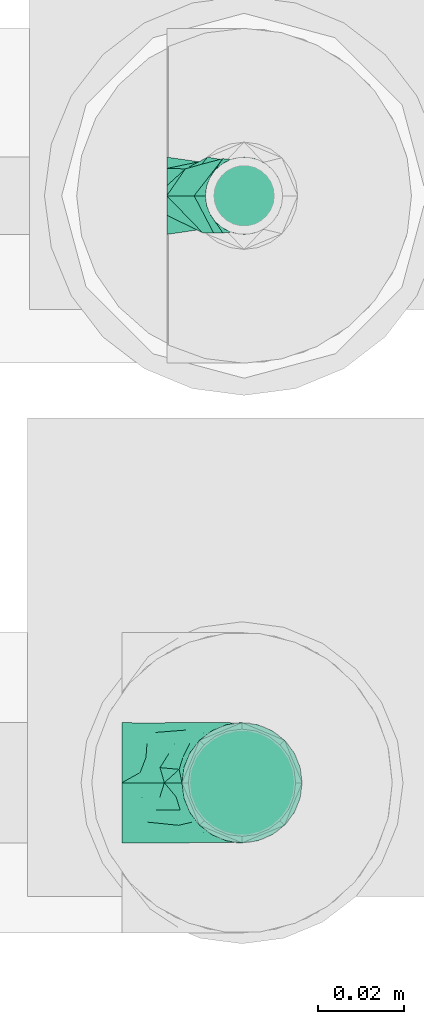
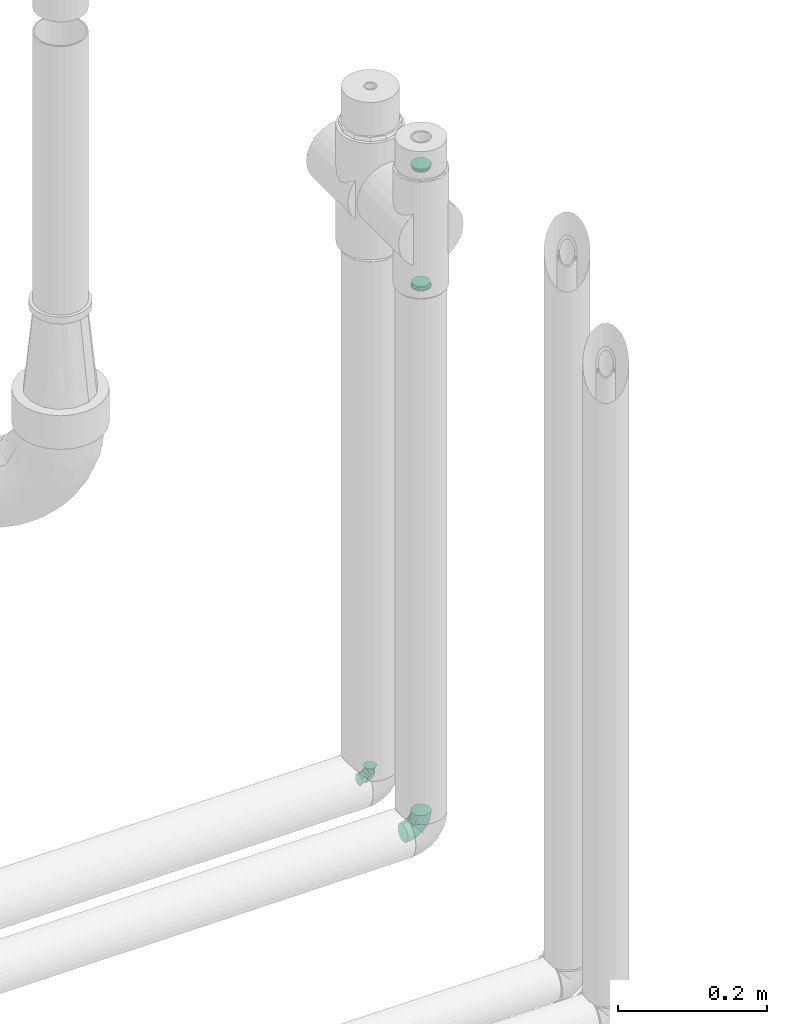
# One storey, part 46 of 83: 4 flow fittings.
"""IFC2X3 building model written with IfcOpenShell, lengths in millimetres."""

import ifcopenshell
import ifcopenshell.guid

model = None  # the IFC model being written
_history = None  # IfcOwnerHistory: only IFC2X3 demands one
_inside = {}  # id of a spatial element -> (the spatial element, [elements in it])
_under = {}  # id of a project, library or spatial element -> (it, [spatial elements below it])
_declared = {}  # id of a project -> (the project, [libraries it declares])
_typed = {}  # id of a type object -> (the type object, [elements of that type])
_made_of = {}  # id of a material, layer set ... -> (it, [elements and type objects made of it])


def new_model(schema):
    """Start an empty IFC model of exactly this schema.

    Asked for "IFC4X3", IfcOpenShell would pick the latest addendum, in which some entities
    have other attributes; the version numbers below select the first issue.
    IFC2X3 requires an IfcOwnerHistory on every rooted entity: one is made here for all.
    """
    global model, _history
    if schema == "IFC4X3":
        model = ifcopenshell.file(schema_version=(4, 3, 0, 0))
    else:
        model = ifcopenshell.file(schema=schema)
    _inside.clear()
    _under.clear()
    _declared.clear()
    _typed.clear()
    _made_of.clear()
    _history = None
    if model.schema == "IFC2X3":
        org = make("IfcOrganization", Name="unknown")
        user = make(
            "IfcPersonAndOrganization",
            ThePerson=make("IfcPerson", FamilyName="unknown"),
            TheOrganization=org,
        )
        app = make(
            "IfcApplication",
            ApplicationDeveloper=org,
            Version="unknown",
            ApplicationFullName="unknown",
            ApplicationIdentifier="unknown",
        )
        _history = make(
            "IfcOwnerHistory",
            OwningUser=user,
            OwningApplication=app,
            ChangeAction="ADDED",
            CreationDate=0,
        )
    return model


def make(cls, **values):
    """One entity of the class cls with the attributes given. An attribute that is None is left unset."""
    return model.create_entity(
        cls, **{name: value for name, value in values.items() if value is not None}
    )


def entity(cls, *values):
    """Any entity or typed value of the class cls, its attributes in the order of the schema. None: left unset."""
    e = model.create_entity(cls)
    for i, value in enumerate(values):
        if value is not None:
            e[i] = value
    return e


def rooted(cls, **values):
    """An entity with a GlobalId (a new one), such as an element, a storey or a relation."""
    return make(cls, GlobalId=ifcopenshell.guid.new(), OwnerHistory=_history, **values)


def si_unit(unit_type, name, prefix=None):
    """IfcSIUnit, for example si_unit("LENGTHUNIT", "METRE", prefix="MILLI")."""
    return make("IfcSIUnit", UnitType=unit_type, Prefix=prefix, Name=name)


def converted_unit(unit_type, name, factor, base, dimensions=None, offset=None):
    """IfcConversionBasedUnit, such as the inch: factor (a typed value) times the base unit."""
    return make(
        "IfcConversionBasedUnit"
        if offset is None
        else "IfcConversionBasedUnitWithOffset",
        ConversionOffset=offset,
        Dimensions=None
        if dimensions is None
        else entity("IfcDimensionalExponents", *dimensions),
        UnitType=unit_type,
        Name=name,
        ConversionFactor=make(
            "IfcMeasureWithUnit", ValueComponent=factor, UnitComponent=base
        ),
    )


def derived_unit(unit_type, elements):
    """IfcDerivedUnit: a product of units, each with its exponent."""
    return make(
        "IfcDerivedUnit",
        Elements=[
            make("IfcDerivedUnitElement", Unit=unit, Exponent=power)
            for unit, power in elements
        ],
        UnitType=unit_type,
    )


def assignment(units):
    """IfcUnitAssignment: the units of a project."""
    return None if units is None else make("IfcUnitAssignment", Units=units)


def point(xyz):
    """IfcCartesianPoint."""
    return None if xyz is None else make("IfcCartesianPoint", Coordinates=xyz)


def direction(xyz):
    """IfcDirection."""
    return None if xyz is None else make("IfcDirection", DirectionRatios=xyz)


def frame(location, z_axis=None, x_axis=None):
    """IfcAxis2Placement3D, a coordinate frame: its origin and axes. An axis left out is left unset."""
    return make(
        "IfcAxis2Placement3D",
        Location=point(location),
        Axis=direction(z_axis),
        RefDirection=direction(x_axis),
    )


def origin_with_axes():
    """The frame at (0, 0, 0) with the z axis (0, 0, 1) and the x axis (1, 0, 0) written out."""
    return frame((0.0, 0.0, 0.0), z_axis=(0.0, 0.0, 1.0), x_axis=(1.0, 0.0, 0.0))


def place(relative_to, where):
    """IfcLocalPlacement: puts the frame where relative to a parent placement (None: the world)."""
    return make(
        "IfcLocalPlacement", PlacementRelTo=relative_to, RelativePlacement=where
    )


def context(
    kind, dimensions, precision=None, world=None, true_north=None, identifier=None
):
    """IfcGeometricRepresentationContext, for example the 3D "Model" context."""
    return make(
        "IfcGeometricRepresentationContext",
        ContextIdentifier=identifier,
        ContextType=kind,
        CoordinateSpaceDimension=dimensions,
        Precision=precision,
        WorldCoordinateSystem=world,
        TrueNorth=true_north,
    )


def subcontext(parent, identifier, kind, view, scale=None):
    """IfcGeometricRepresentationSubContext, for example "Body" below "Model"."""
    return make(
        "IfcGeometricRepresentationSubContext",
        ContextIdentifier=identifier,
        ContextType=kind,
        ParentContext=parent,
        TargetScale=scale,
        TargetView=view,
    )


def project(units=None, contexts=None):
    """IfcProject with its units and contexts."""
    return rooted(
        "IfcProject",
        Name="project",
        RepresentationContexts=contexts,
        UnitsInContext=assignment(units),
    )


def spatial(cls, under=None, at=None, **own):
    """A site, building, storey or space (cls), placed at a placement, below another one or the project."""
    s = rooted(cls, ObjectPlacement=at, **own)
    if under is not None:
        _under.setdefault(under.id(), (under, []))[1].append(s)
    return s


def faces_of(points, faces, orient=None, outer=None):
    """IfcFace entities. A face is a list of loops; a loop is a list of indices into points, from 0.

    orient and outer hold one flag for each loop. By default every Orientation is true, the
    first loop of a face is its IfcFaceOuterBound and the others are IfcFaceBound.
    """
    made = []
    for i, loops in enumerate(faces):
        bounds = []
        for j, loop in enumerate(loops):
            is_outer = j == 0 if outer is None else outer[i][j]
            bounds.append(
                make(
                    "IfcFaceOuterBound" if is_outer else "IfcFaceBound",
                    Bound=make("IfcPolyLoop", Polygon=[points[k] for k in loop]),
                    Orientation=True if orient is None else orient[i][j],
                )
            )
        made.append(make("IfcFace", Bounds=bounds))
    return made


def open_shell(faces, orient=None, outer=None):
    """The faces of one IfcOpenShell. surface_model builds it on its shared points."""
    return ("IfcOpenShell", faces, orient, outer)


def surface_model(cls, points, shells):
    """IfcFaceBasedSurfaceModel or IfcShellBasedSurfaceModel (cls): surfaces that need not close."""
    shared = [point(p) for p in points]
    made = [make(c, CfsFaces=faces_of(shared, fs, o, b)) for c, fs, o, b in shells]
    if cls == "IfcFaceBasedSurfaceModel":
        return make(cls, FbsmFaces=made)
    return make(cls, SbsmBoundary=made)


def shape(context_of_items, identifier, shape_type, items):
    """IfcShapeRepresentation: the items that make up one representation, for example the "Body"."""
    return make(
        "IfcShapeRepresentation",
        ContextOfItems=context_of_items,
        RepresentationIdentifier=identifier,
        RepresentationType=shape_type,
        Items=items,
    )


def source(mapping_origin, context_of_items, identifier, shape_type, items):
    """IfcRepresentationMap: a shape defined once, which mapped items show again and again."""
    return make(
        "IfcRepresentationMap",
        MappingOrigin=mapping_origin,
        MappedRepresentation=shape(context_of_items, identifier, shape_type, items),
    )


def transform(
    local_origin,
    x_axis=None,
    y_axis=None,
    z_axis=None,
    scale=None,
    scale2=None,
    scale3=None,
    uniform=True,
):
    """IfcCartesianTransformationOperator3D, or its non-uniform kind. x_axis, y_axis, z_axis: its Axis1, 2, 3."""
    if uniform:
        return make(
            "IfcCartesianTransformationOperator3D",
            Axis1=direction(x_axis),
            Axis2=direction(y_axis),
            LocalOrigin=point(local_origin),
            Scale=scale,
            Axis3=direction(z_axis),
        )
    return make(
        "IfcCartesianTransformationOperator3DnonUniform",
        Axis1=direction(x_axis),
        Axis2=direction(y_axis),
        LocalOrigin=point(local_origin),
        Scale=scale,
        Axis3=direction(z_axis),
        Scale2=scale2,
        Scale3=scale3,
    )


def mapped(mapping_source, mapping_target):
    """IfcMappedItem: shows the shape of a source again, moved by a transform."""
    return make(
        "IfcMappedItem", MappingSource=mapping_source, MappingTarget=mapping_target
    )


def made_of(thing, what):
    """Note that an element or type object is made of a material, layer set ...; save() writes the relation."""
    if what is not None:
        _made_of.setdefault(what.id(), (what, []))[1].append(thing)
    return thing


def type_object(cls, material=None, **own):
    """A type object (cls), such as IfcWallType, which elements share."""
    return made_of(rooted(cls, **own), material)


def element(
    cls,
    number,
    at=None,
    inside=None,
    cuts=None,
    type_object=None,
    material=None,
    context=None,
    identifier="Body",
    shape_type=None,
    held_by="IfcProductDefinitionShape",
    body=None,
    shapes=None,
    **own,
):
    """One element of the class cls, such as IfcWall. Its Tag is "e" and its number.

    at: its placement. inside: the storey or other place that contains it. cuts: it is an
    opening in that element (IfcRelVoidsElement). A single representation is given by context,
    identifier, shape_type and body (its items); several are given by shapes. held_by: the class
    of the entity that holds the representations. save() writes the other relations.
    """
    e = rooted(cls, Tag="e%d" % number, ObjectPlacement=at, **own)
    if body is not None:
        shapes = [shape(context, identifier, shape_type, body)]
    if shapes is not None:
        e.Representation = make(held_by, Representations=shapes)
    if inside is not None:
        _inside.setdefault(inside.id(), (inside, []))[1].append(e)
    if cuts is not None:
        rooted(
            "IfcRelVoidsElement", RelatingBuildingElement=cuts, RelatedOpeningElement=e
        )
    if type_object is not None:
        _typed.setdefault(type_object.id(), (type_object, []))[1].append(e)
    return made_of(e, material)


def aggregate(whole, parts):
    """IfcRelAggregates: a whole, such as a stair, and the parts it consists of."""
    return rooted("IfcRelAggregates", RelatingObject=whole, RelatedObjects=parts)


def save(model, path):
    """Write the relations noted so far, then the file.

    IfcRelAggregates (storeys below a building ...), IfcRelContainedInSpatialStructure (elements
    in a storey), IfcRelDefinesByType, IfcRelAssociatesMaterial and IfcRelDeclares: one each for
    every whole, place, type object, material and project.
    """
    for whole, parts in _under.values():
        aggregate(whole, parts)
    for where, things in _inside.values():
        rooted(
            "IfcRelContainedInSpatialStructure",
            RelatedElements=things,
            RelatingStructure=where,
        )
    for kind, things in _typed.values():
        rooted("IfcRelDefinesByType", RelatedObjects=things, RelatingType=kind)
    for what, things in _made_of.values():
        rooted("IfcRelAssociatesMaterial", RelatedObjects=things, RelatingMaterial=what)
    for by, libraries in _declared.values():
        rooted("IfcRelDeclares", RelatingContext=by, RelatedDefinitions=libraries)
    model.write(path)


model = new_model("IFC2X3")

# Units and contexts
model_context = context("Model", 3, precision=0.01, world=frame((0.0, 4.29681676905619e-09, 0.0)), true_north=direction((4.01073788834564e-13, 1.0)))
plan_context = context("Plan", 3, precision=0.01, world=frame((0.0, 4.29681676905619e-09, 0.0)), true_north=direction((4.01073788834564e-13, 1.0)))
body_context = subcontext(model_context, "Body", "Model", "MODEL_VIEW")
ifc_project = project(units=[converted_unit("PLANEANGLEUNIT", "DEGREE", entity("IfcPositiveLengthMeasure", 0.0174532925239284), si_unit("PLANEANGLEUNIT", "RADIAN"), dimensions=[0, 0, 0, 0, 0, 0, 0]), si_unit("AREAUNIT", "SQUARE_METRE"), si_unit("LENGTHUNIT", "METRE", prefix="MILLI"), si_unit("MASSUNIT", "GRAM", prefix="KILO"), si_unit("POWERUNIT", "WATT"), si_unit("PRESSUREUNIT", "PASCAL"), si_unit("FORCEUNIT", "NEWTON", prefix="KILO"), si_unit("ELECTRICVOLTAGEUNIT", "VOLT"), si_unit("ELECTRICCURRENTUNIT", "AMPERE"), si_unit("THERMODYNAMICTEMPERATUREUNIT", "DEGREE_CELSIUS"), si_unit("TIMEUNIT", "SECOND"), si_unit("VOLUMEUNIT", "CUBIC_METRE"), derived_unit("LINEARVELOCITYUNIT", [(si_unit("LENGTHUNIT", "METRE"), 1), (si_unit("TIMEUNIT", "SECOND"), -1)]), derived_unit("VOLUMETRICFLOWRATEUNIT", [(si_unit("VOLUMEUNIT", "CUBIC_METRE"), 1), (si_unit("TIMEUNIT", "SECOND"), -1)]), derived_unit("THERMALTRANSMITTANCEUNIT", [(si_unit("POWERUNIT", "WATT"), 1), (si_unit("THERMODYNAMICTEMPERATUREUNIT", "KELVIN"), -1), (si_unit("AREAUNIT", "SQUARE_METRE"), -1)]), derived_unit("SOUNDPRESSUREUNIT", [(si_unit("PRESSUREUNIT", "PASCAL"), 1)])], contexts=[model_context, plan_context])

# Site, building, storey
site_placement = place(None, frame((0.0, -4.29681676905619e-09, 0.0), z_axis=(0.0, 0.0, 1.0), x_axis=(1.0, 0.0, 0.0)))
site = spatial("IfcSite", under=ifc_project, at=site_placement, Name="ENGM", CompositionType="ELEMENT")
building_placement = place(site_placement, frame((0.0, 4.29681676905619e-09, 0.0), z_axis=(0.0, 0.0, 1.0), x_axis=(1.0, 0.0, 0.0)))
building = spatial("IfcBuilding", under=site, at=building_placement, Name="TI", CompositionType="ELEMENT")
storey_placement = place(building_placement, frame((0.0, 0.0, 204000.0), z_axis=(0.0, 0.0, 1.0), x_axis=(1.0, 0.0, 0.0)))
storey = spatial("IfcBuildingStorey", under=building, at=storey_placement, Name="Nivå D", CompositionType="ELEMENT", Elevation=204000.0)

# Flow fittings
pipe_fitting_type_1 = type_object("IfcPipeFittingType", Name="magi_pipe_cu_reducer_centric_short_001", PredefinedType="TRANSITION")
shared_shape_1 = source(origin_with_axes(), body_context, "Body", "SurfaceModel", [
    surface_model("IfcShellBasedSurfaceModel", [(-2.0, 9.89949, 9.89949), (-2.0, 0.0, 14.0), (-2.0, 3.62347, 13.52296), (-2.0, 7.0, 12.12436), (-2.0, 12.12436, 7.0), (-2.0, 13.52296, 3.62347), (-2.0, -14.0, 0.0), (-2.0, -12.12436, -7.0), (-2.0, -3.62347, 13.52296), (-2.0, -9.89949, 9.89949), (-2.0, -7.0, 12.12436), (-2.0, -13.52296, 3.62347), (-2.0, -12.12436, 7.0), (-2.0, 13.52296, -3.62347), (-2.0, 3.62347, -13.52296), (-2.0, 12.12436, -7.0), (-2.0, 9.89949, -9.89949), (-2.0, 7.0, -12.12436), (-2.0, 0.0, -14.0), (-2.0, -7.0, -12.12436), (-2.0, -9.89949, -9.89949), (-2.0, -13.52296, -3.62347), (-2.0, -3.62347, -13.52296), (-2.0, 14.0, 0.0), (0.0, 3.62347, -13.52296), (0.0, 7.0, -12.12436), (0.0, 9.89949, -9.89949), (0.0, 12.12436, -7.0), (0.0, 13.52296, -3.62347), (0.0, -7.0, -12.12436), (0.0, -12.12436, -7.0), (0.0, 14.0, 0.0), (0.0, 0.0, -14.0), (0.0, -3.62347, -13.52296), (0.0, -9.89949, -9.89949), (0.0, -13.52296, -3.62347), (0.0, 13.52296, 3.62347), (0.0, 12.12436, 7.0), (0.0, 9.89949, 9.89949), (0.0, 7.0, 12.12436), (0.0, 3.62347, 13.52296), (0.0, 0.0, 14.0), (0.0, -3.62347, 13.52296), (0.0, -13.52296, 3.62347), (0.0, -9.89949, 9.89949), (0.0, -12.12436, 7.0), (0.0, -14.0, 0.0), (0.0, -7.0, 12.12436), (5.0, 3.23524, -12.07407), (5.0, 6.25, -10.82532), (5.0, 8.83883, -8.83883), (5.0, 12.07407, -3.23524), (5.0, -12.07407, -3.23524), (5.0, 10.82532, -6.25), (5.0, -10.82532, 6.25), (5.0, 0.0, -12.5), (5.0, -6.25, -10.82532), (5.0, -3.23524, -12.07407), (5.0, -8.83883, -8.83883), (5.0, -10.82532, -6.25), (5.0, 12.5, 0.0), (5.0, 12.07407, 3.23524), (5.0, 10.82532, 6.25), (5.0, 8.83883, 8.83883), (5.0, 6.25, 10.82532), (5.0, 3.23524, 12.07407), (5.0, 0.0, 12.5), (5.0, -12.5, 0.0), (5.0, -12.07407, 3.23524), (5.0, -6.25, 10.82532), (5.0, -8.83883, 8.83883), (5.0, -3.23524, 12.07407), (3.0, 0.0, 12.5), (3.0, 3.23524, 12.07407), (3.0, 6.25, 10.82532), (3.0, -10.82532, 6.25), (3.0, 8.83883, 8.83883), (3.0, 10.82532, 6.25), (3.0, 12.07407, 3.23524), (3.0, -12.07407, -3.23524), (3.0, -3.23524, 12.07407), (3.0, -8.83883, 8.83883), (3.0, -6.25, 10.82532), (3.0, -12.5, 0.0), (3.0, -12.07407, 3.23524), (3.0, 12.07407, -3.23524), (3.0, 8.83883, -8.83883), (3.0, 10.82532, -6.25), (3.0, 6.25, -10.82532), (3.0, 3.23524, -12.07407), (3.0, -6.25, -10.82532), (3.0, -8.83883, -8.83883), (3.0, -10.82532, -6.25), (3.0, 0.0, -12.5), (3.0, -3.23524, -12.07407), (3.0, 12.5, 0.0), (3.0, 11.10264, -3.37353), (3.0, 9.97074, -6.10618), (0.0, 11.94975, -4.94975), (0.0, 12.97487, -2.47487), (0.0, 2.47487, -12.97487), (3.0, 4.41942, -10.66942), (0.0, 7.42462, -10.92462), (3.0, 6.62913, -9.75413), (0.0, 4.94975, -11.94975), (3.0, 2.20971, -11.58471), (0.0, -11.94975, -4.94975), (3.0, -10.66942, -4.41942), (3.0, -11.58471, -2.20971), (3.0, -2.20971, -11.58471), (3.0, -9.75413, -6.62913), (0.0, -13.21748, -1.88918), (0.0, -10.92462, -7.42462), (3.0, -4.41942, -10.66942), (3.0, -6.62913, -9.75413), (0.0, -4.94975, -11.94975), (0.0, -2.47487, -12.97487), (0.0, -7.42462, -10.92462), (0.0, 10.92462, -7.42462), (3.0, -11.10264, 3.37353), (3.0, -9.97074, 6.10618), (0.0, -11.94975, 4.94975), (0.0, -12.97487, 2.47487), (0.0, -2.47487, 12.97487), (3.0, -4.41942, 10.66942), (0.0, -7.42462, 10.92462), (3.0, -6.62913, 9.75413), (0.0, -4.94975, 11.94975), (3.0, -2.20971, 11.58471), (0.0, 11.94975, 4.94975), (3.0, 10.66942, 4.41942), (3.0, 11.58471, 2.20971), (3.0, 2.20971, 11.58471), (3.0, 9.75413, 6.62913), (0.0, 13.21748, 1.88918), (0.0, 10.92462, 7.42462), (3.0, 4.41942, 10.66942), (3.0, 6.62913, 9.75413), (0.0, 4.94975, 11.94975), (0.0, 2.47487, 12.97487), (0.0, 7.42462, 10.92462), (0.0, -10.92462, 7.42462)], [open_shell([[[0, 1, 2]], [[0, 2, 3]], [[0, 4, 5]], [[0, 5, 1]], [[6, 1, 7]], [[8, 9, 10]], [[9, 8, 11]], [[9, 11, 12]], [[11, 8, 6]], [[8, 1, 6]], [[1, 5, 7]], [[7, 5, 13]], [[14, 13, 15]], [[16, 17, 14]], [[16, 14, 15]], [[18, 13, 14]], [[7, 19, 20]], [[21, 6, 7]], [[19, 18, 22]], [[19, 7, 13]], [[18, 19, 13]], [[5, 23, 13]], [[24, 25, 26]], [[24, 26, 27]], [[24, 28, 29]], [[28, 24, 27]], [[30, 28, 31]], [[32, 29, 33]], [[32, 24, 29]], [[29, 30, 34]], [[28, 30, 29]], [[31, 35, 30]], [[31, 36, 35]], [[36, 37, 38]], [[36, 38, 39]], [[40, 41, 36]], [[40, 36, 39]], [[36, 41, 42]], [[43, 44, 45]], [[42, 43, 46]], [[44, 42, 47]], [[42, 44, 43]], [[46, 36, 42]], [[36, 46, 35]], [[21, 35, 6]], [[7, 30, 21]], [[29, 20, 19]], [[7, 20, 34]], [[33, 19, 22]], [[21, 30, 35]], [[35, 46, 6]], [[33, 29, 19]], [[34, 20, 29]], [[34, 30, 7]], [[32, 33, 22]], [[22, 18, 32]], [[14, 24, 18]], [[17, 25, 14]], [[27, 16, 15]], [[17, 16, 26]], [[28, 15, 13]], [[17, 26, 25]], [[25, 24, 14]], [[31, 28, 13]], [[27, 15, 28]], [[27, 26, 16]], [[23, 31, 13]], [[18, 24, 32]], [[5, 36, 23]], [[4, 37, 5]], [[39, 0, 3]], [[4, 0, 38]], [[40, 3, 2]], [[5, 37, 36]], [[36, 31, 23]], [[40, 39, 3]], [[38, 0, 39]], [[38, 37, 4]], [[41, 40, 2]], [[2, 1, 41]], [[8, 42, 1]], [[10, 47, 8]], [[45, 9, 12]], [[10, 9, 44]], [[43, 12, 11]], [[10, 44, 47]], [[47, 42, 8]], [[46, 43, 11]], [[45, 12, 43]], [[45, 44, 9]], [[6, 46, 11]], [[1, 42, 41]], [[34, 46, 32]], [[38, 32, 46]], [[32, 38, 26]], [[26, 38, 31]], [[48, 49, 50]], [[48, 50, 51]], [[48, 51, 52]], [[51, 50, 53]], [[54, 52, 51]], [[55, 56, 57]], [[55, 48, 56]], [[58, 52, 59]], [[52, 58, 56]], [[48, 52, 56]], [[51, 60, 54]], [[61, 62, 63]], [[61, 63, 64]], [[64, 65, 66]], [[61, 64, 54]], [[54, 64, 66]], [[67, 54, 68]], [[52, 54, 67]], [[54, 69, 70]], [[69, 54, 71]], [[66, 71, 54]], [[54, 60, 61]], [[72, 73, 74]], [[75, 72, 74]], [[76, 77, 78]], [[74, 76, 79]], [[74, 79, 75]], [[80, 81, 82]], [[81, 80, 75]], [[75, 83, 84]], [[75, 80, 72]], [[75, 79, 83]], [[85, 76, 78]], [[79, 76, 85]], [[86, 85, 87]], [[86, 88, 89]], [[86, 89, 85]], [[90, 85, 89]], [[79, 91, 92]], [[79, 85, 91]], [[90, 93, 94]], [[91, 85, 90]], [[89, 93, 90]], [[85, 78, 95]], [[79, 52, 83]], [[92, 59, 79]], [[56, 91, 90]], [[92, 91, 58]], [[57, 90, 94]], [[79, 59, 52]], [[52, 67, 83]], [[57, 56, 90]], [[58, 91, 56]], [[58, 59, 92]], [[55, 57, 94]], [[94, 93, 55]], [[89, 48, 93]], [[88, 49, 89]], [[53, 86, 87]], [[88, 86, 50]], [[51, 87, 85]], [[88, 50, 49]], [[49, 48, 89]], [[60, 51, 85]], [[53, 87, 51]], [[53, 50, 86]], [[95, 60, 85]], [[93, 48, 55]], [[78, 61, 95]], [[77, 62, 78]], [[64, 76, 74]], [[77, 76, 63]], [[65, 74, 73]], [[78, 62, 61]], [[61, 60, 95]], [[65, 64, 74]], [[63, 76, 64]], [[63, 62, 77]], [[66, 65, 73]], [[73, 72, 66]], [[80, 71, 72]], [[82, 69, 80]], [[54, 81, 75]], [[82, 81, 70]], [[68, 75, 84]], [[82, 70, 69]], [[69, 71, 80]], [[67, 68, 84]], [[54, 75, 68]], [[54, 70, 81]], [[83, 67, 84]], [[72, 71, 66]], [[72, 81, 95]], [[95, 76, 72]], [[81, 91, 95]], [[93, 95, 91]], [[86, 95, 93]], [[91, 81, 83]], [[41, 38, 44]], [[46, 44, 38]], [[96, 97, 98]], [[95, 96, 99]], [[95, 99, 31]], [[93, 32, 100]], [[101, 102, 103]], [[26, 86, 103]], [[104, 105, 100]], [[106, 107, 108]], [[96, 98, 99]], [[32, 93, 109]], [[110, 34, 91]], [[108, 83, 111]], [[107, 112, 110]], [[34, 110, 112]], [[113, 114, 115]], [[113, 116, 109]], [[93, 100, 105]], [[114, 91, 117]], [[32, 109, 116]], [[86, 118, 97]], [[101, 104, 102]], [[26, 103, 102]], [[105, 104, 101]], [[83, 46, 111]], [[106, 108, 111]], [[112, 107, 106]], [[91, 34, 117]], [[115, 114, 117]], [[116, 113, 115]], [[118, 86, 26]], [[118, 98, 97]], [[119, 120, 121]], [[83, 119, 122]], [[83, 122, 46]], [[72, 41, 123]], [[124, 125, 126]], [[44, 81, 126]], [[127, 128, 123]], [[129, 130, 131]], [[119, 121, 122]], [[41, 72, 132]], [[133, 38, 76]], [[131, 95, 134]], [[130, 135, 133]], [[38, 133, 135]], [[136, 137, 138]], [[136, 139, 132]], [[72, 123, 128]], [[137, 76, 140]], [[41, 132, 139]], [[81, 141, 120]], [[124, 127, 125]], [[44, 126, 125]], [[128, 127, 124]], [[95, 31, 134]], [[129, 131, 134]], [[135, 130, 129]], [[76, 38, 140]], [[138, 137, 140]], [[139, 136, 138]], [[141, 81, 44]], [[141, 121, 120]]])]),
])
for number, where, z_axis, x_axis, name in (
    (1, (609131.50429, 691635.97914, 7106.94321), (0.0, 1.0, 0.0), (0.0, 0.0, 1.0), "magi_pipe_cu_reducer_centric_short_001"),
    (2, (609131.50429, 691635.97914, 7302.94321), (0.0, 1.0, 0.0), (0.0, 0.0, -1.0), "magi_pipe_cu_reducer_centric_short_001"),
):
    element("IfcFlowFitting", number, at=place(storey_placement, frame(where, z_axis=z_axis, x_axis=x_axis)), inside=storey, type_object=pipe_fitting_type_1, Name=name, context=body_context, shape_type="MappedRepresentation", body=[
        mapped(shared_shape_1, transform((0.0, 0.0, 0.0), scale=1.0)),
    ])
pipe_fitting_type_2 = type_object("IfcPipeFittingType", Name="magi_pipe_cu_elbow_short_001", PredefinedType="BEND")
shared_shape_2 = source(origin_with_axes(), body_context, "Body", "SurfaceModel", [
    surface_model("IfcShellBasedSurfaceModel", [(-18.0, 4.5, -7.79423), (-18.0, 2.32937, -8.69333), (-18.0, 0.0, -9.0), (-18.0, -6.36396, -6.36396), (-18.0, 8.69333, -2.32937), (-18.0, 7.79423, -4.5), (-18.0, 6.36396, -6.36396), (-18.0, -4.5, -7.79423), (-18.0, -2.32937, -8.69333), (-18.0, -7.79423, -4.5), (-18.0, -8.69333, -2.32937), (-18.0, -9.0, 0.0), (-18.0, 8.69333, 2.32937), (-18.0, -7.79423, 4.5), (-18.0, 7.79423, 4.5), (-18.0, 6.36396, 6.36396), (-18.0, 2.32937, 8.69333), (-18.0, 4.5, 7.79423), (-18.0, 0.0, 9.0), (-18.0, -6.36396, 6.36396), (-18.0, -2.32937, 8.69333), (-18.0, -8.69333, 2.32937), (-18.0, -4.5, 7.79423), (-18.0, 9.0, 0.0), (0.0, 18.0, -9.0), (-2.32937, 18.0, -8.69333), (-4.5, 18.0, -7.79423), (6.36396, 18.0, -6.36396), (-6.36396, 18.0, -6.36396), (-7.79423, 18.0, -4.5), (-8.69333, 18.0, -2.32937), (9.0, 18.0, 0.0), (2.32937, 18.0, -8.69333), (4.5, 18.0, -7.79423), (8.69333, 18.0, -2.32937), (7.79423, 18.0, -4.5), (-8.69333, 18.0, 2.32937), (7.79423, 18.0, 4.5), (-6.36396, 18.0, 6.36396), (-7.79423, 18.0, 4.5), (-4.5, 18.0, 7.79423), (-2.32937, 18.0, 8.69333), (0.0, 18.0, 9.0), (2.32937, 18.0, 8.69333), (6.36396, 18.0, 6.36396), (8.69333, 18.0, 2.32937), (4.5, 18.0, 7.79423), (-9.0, 18.0, 0.0), (-16.09014, -8.48825, 0.0), (-10.51068, -2.97249, 7.92278), (-10.36056, -6.95302, 0.0), (-4.5, -5.38269, 0.0), (0.44134, -0.44134, 0.0), (2.91201, 2.02933, 0.0), (-2.70211, 1.18586, 7.65564), (-2.02933, -2.91201, 0.0), (-14.18028, -7.97651, 0.0), (-7.11648, 7.11648, 8.61373), (-4.93977, 9.63211, 8.64898), (2.97249, 10.51068, 7.92278), (2.01286, 5.84889, 7.1903), (5.38269, 4.5, 0.0), (-5.73616, -2.07922, 7.10204), (8.48825, 16.09014, 0.0), (7.97651, 14.18028, 0.0), (-9.63211, 4.93977, 8.64898), (-10.31802, 14.81802, 0.0), (-14.81802, 10.31802, 0.0), (-11.63604, 11.63604, 0.0), (6.95302, 10.36056, 0.0), (-10.51068, -2.97249, -7.92278), (-4.93977, 9.63211, -8.64898), (0.8585, 4.1248, -7.1903), (-2.68792, 2.14037, -8.03971), (2.97249, 10.51068, -7.92278), (-13.67048, 7.29638, -6.27272), (-8.50355, 2.18787, -8.98901), (-9.83427, 8.11209, -7.36254)], [open_shell([[[0, 1, 2]], [[0, 2, 3]], [[4, 5, 6]], [[0, 4, 6]], [[4, 0, 3]], [[7, 3, 8]], [[3, 2, 8]], [[9, 10, 3]], [[11, 3, 10]], [[3, 11, 4]], [[11, 12, 4]], [[13, 12, 11]], [[14, 12, 15]], [[16, 17, 15]], [[15, 12, 18]], [[16, 15, 18]], [[19, 20, 13]], [[13, 11, 21]], [[22, 20, 19]], [[18, 13, 20]], [[13, 18, 12]], [[23, 4, 12]], [[24, 25, 26]], [[27, 24, 26]], [[28, 29, 30]], [[28, 30, 26]], [[31, 26, 30]], [[32, 27, 33]], [[32, 24, 27]], [[27, 34, 35]], [[34, 27, 31]], [[26, 31, 27]], [[30, 36, 31]], [[31, 36, 37]], [[38, 36, 39]], [[38, 40, 41]], [[42, 36, 38]], [[42, 38, 41]], [[37, 43, 44]], [[45, 31, 37]], [[44, 43, 46]], [[43, 37, 42]], [[36, 42, 37]], [[36, 30, 47]], [[21, 48, 13]], [[49, 50, 51]], [[52, 53, 54]], [[54, 55, 52]], [[22, 19, 56]], [[13, 56, 19]], [[57, 54, 58]], [[22, 50, 20]], [[18, 20, 50]], [[59, 60, 61]], [[59, 58, 60]], [[55, 54, 62]], [[18, 50, 49]], [[18, 49, 16]], [[62, 49, 51]], [[62, 51, 55]], [[37, 63, 45]], [[49, 17, 16]], [[64, 63, 37]], [[12, 65, 23]], [[14, 15, 49]], [[54, 65, 62]], [[17, 49, 15]], [[58, 47, 66]], [[67, 57, 68]], [[53, 60, 54]], [[43, 42, 69]], [[69, 46, 43]], [[38, 59, 40]], [[41, 59, 42]], [[44, 46, 64]], [[68, 57, 66]], [[64, 46, 69]], [[61, 60, 53]], [[45, 63, 31]], [[59, 61, 69]], [[47, 58, 36]], [[22, 56, 50]], [[54, 57, 65]], [[49, 65, 14]], [[66, 57, 58]], [[64, 37, 44]], [[39, 36, 58]], [[14, 65, 12]], [[38, 39, 59]], [[21, 11, 48]], [[39, 58, 59]], [[48, 56, 13]], [[40, 59, 41]], [[59, 69, 42]], [[49, 62, 65]], [[57, 67, 65]], [[54, 60, 58]], [[67, 23, 65]], [[70, 50, 2]], [[71, 72, 73]], [[74, 71, 29]], [[70, 1, 0]], [[70, 51, 50]], [[34, 31, 63]], [[75, 6, 5]], [[75, 4, 23]], [[5, 4, 75]], [[51, 76, 55]], [[75, 23, 67]], [[70, 6, 75]], [[48, 11, 10]], [[7, 56, 3]], [[2, 50, 8]], [[51, 70, 76]], [[56, 7, 50]], [[7, 8, 50]], [[70, 2, 1]], [[66, 47, 71]], [[52, 72, 53]], [[6, 70, 0]], [[70, 75, 76]], [[73, 52, 55]], [[71, 68, 66]], [[61, 53, 72]], [[33, 64, 69]], [[30, 71, 47]], [[28, 74, 29]], [[56, 9, 3]], [[26, 25, 74]], [[63, 64, 35]], [[56, 48, 9]], [[26, 74, 28]], [[9, 48, 10]], [[24, 74, 25]], [[32, 69, 24]], [[29, 71, 30]], [[27, 64, 33]], [[69, 32, 33]], [[68, 71, 77]], [[74, 24, 69]], [[35, 34, 63]], [[61, 72, 74]], [[61, 74, 69]], [[67, 77, 75]], [[74, 72, 71]], [[35, 64, 27]], [[76, 77, 73]], [[75, 77, 76]], [[77, 71, 73]], [[55, 76, 73]], [[72, 52, 73]], [[77, 67, 68]]])]),
])
flow_fitting_1_placement = place(storey_placement, frame((609131.9743, 691772.72914, 6220.0), z_axis=(0.0, -1.0, 0.0), x_axis=(1.0, 0.0, 0.0)))
element("IfcFlowFitting", 3, at=flow_fitting_1_placement, inside=storey, type_object=pipe_fitting_type_2, Name="magi_pipe_cu_elbow_short_001", context=body_context, shape_type="MappedRepresentation", body=[
    mapped(shared_shape_2, transform((0.0, 0.0, 0.0), scale=1.0)),
])
shared_shape_3 = source(origin_with_axes(), body_context, "Body", "SurfaceModel", [
    surface_model("IfcShellBasedSurfaceModel", [(-28.0, 3.62347, -13.52296), (-28.0, 0.0, -14.0), (-28.0, 9.89949, -9.89949), (-28.0, 7.0, -12.12436), (-28.0, 13.52296, -3.62347), (-28.0, 12.12436, -7.0), (-28.0, -7.0, -12.12436), (-28.0, -9.89949, -9.89949), (-28.0, -3.62347, -13.52296), (-28.0, -13.52296, -3.62347), (-28.0, -12.12436, -7.0), (-28.0, -14.0, 0.0), (-28.0, -13.52296, 3.62347), (-28.0, 14.0, 0.0), (-28.0, 13.52296, 3.62347), (-28.0, 12.12436, 7.0), (-28.0, 9.89949, 9.89949), (-28.0, 3.62347, 13.52296), (-28.0, 7.0, 12.12436), (-28.0, 0.0, 14.0), (-28.0, -12.12436, 7.0), (-28.0, -9.89949, 9.89949), (-28.0, -3.62347, 13.52296), (-28.0, -7.0, 12.12436), (-9.89949, 28.0, -9.89949), (0.0, 28.0, -14.0), (-3.62347, 28.0, -13.52296), (-7.0, 28.0, -12.12436), (-14.0, 28.0, 0.0), (-12.12436, 28.0, -7.0), (9.89949, 28.0, -9.89949), (3.62347, 28.0, -13.52296), (7.0, 28.0, -12.12436), (13.52296, 28.0, -3.62347), (12.12436, 28.0, -7.0), (-13.52296, 28.0, 3.62347), (14.0, 28.0, 0.0), (-13.52296, 28.0, -3.62347), (-9.89949, 28.0, 9.89949), (-12.12436, 28.0, 7.0), (-7.0, 28.0, 12.12436), (-3.62347, 28.0, 13.52296), (13.52296, 28.0, 3.62347), (0.0, 28.0, 14.0), (9.89949, 28.0, 9.89949), (12.12436, 28.0, 7.0), (7.0, 28.0, 12.12436), (3.62347, 28.0, 13.52296), (-18.74729, -12.24672, 4.38175), (-20.4978, -10.87112, 7.8554), (-14.63098, -10.41778, 0.0), (-11.36869, -10.18884, 3.09687), (5.89274, 4.32805, 4.24468), (3.06694, 4.04075, 8.35629), (-0.17293, -0.734, 7.21134), (-12.21635, -8.85831, 7.04954), (-3.77138, -5.46958, 4.31404), (-21.31549, -12.20889, 0.0), (6.34939, 11.25924, 9.57712), (8.06481, 18.3168, 10.42711), (3.37486, 10.81192, 11.64293), (-18.31681, -8.06481, 10.42711), (-20.56266, -5.29223, 12.59496), (-21.38752, -1.85462, 13.76057), (-19.60454, 2.14601, 13.97614), (-10.81192, -3.37486, 11.64293), (-13.93831, -0.12564, 13.56955), (-21.5811, 5.49074, 13.225), (-21.95612, 11.65158, 9.17996), (-20.05772, 14.63261, 6.40071), (-24.5084, 13.14639, 5.80116), (-14.41344, 20.50581, 6.33709), (-4.86565, 13.76759, 13.97488), (-10.37, 10.37, 13.65983), (-8.33631, 6.11788, 13.92788), (-14.75744, 15.63504, 9.91683), (-24.22185, 8.47816, 11.40754), (-3.65439, 9.37683, 13.74657), (-6.95631, 2.56833, 13.07318), (-1.43023, 7.56381, 12.86583), (-23.31553, 14.32852, 3.52781), (-21.69779, 16.61046, 0.0), (-5.22595, 24.14907, 13.1135), (-1.91876, 20.94202, 13.96561), (5.29223, 20.56266, 12.59496), (-4.80832, -3.33944, 8.67628), (-2.5008, 2.5008, 11.44619), (1.85462, 21.38752, 13.76057), (10.87112, 20.4978, 7.8554), (8.85831, 12.21635, 7.04954), (12.24672, 18.74729, 4.38175), (-11.25924, -6.34939, 9.57712), (-15.37363, 21.10999, 3.25616), (-19.14983, 16.6358, 3.33834), (10.18884, 11.36869, 3.09687), (10.41778, 14.63098, 0.0), (12.20889, 21.31549, 0.0), (-18.10051, 18.10051, 0.0), (8.37307, 7.0, 0.0), (-11.50288, 18.59955, 10.71326), (-8.84699, 21.68272, 11.60426), (-11.55739, 22.32322, 9.13967), (-10.58943, 15.13428, 12.47628), (-6.05474, 18.97034, 13.33304), (-14.9522, 12.56273, 11.63436), (-7.0, -8.37307, 0.0), (-15.38425, 5.99686, 13.74946), (-13.73768, 3.4306, 13.99403), (-14.88363, 9.49937, 12.94918), (-8.15523, 14.5327, 13.41132), (0.12564, 13.93831, 13.56955), (-19.27864, 9.50344, 11.78944), (-1.06605, 0.88351, 9.56863), (-3.83005, -4.31684, 6.58349), (-3.15673, -4.5298, 0.0), (1.6378, -1.17307, 3.37596), (-16.61046, 21.69779, 0.0), (4.5298, 3.15673, 0.0), (0.68653, -0.68653, 0.0), (-22.16307, 1.77021, -13.95443), (-12.1112, 20.49304, -9.34219), (-20.84882, -12.5942, -4.60988), (-21.54235, 5.49691, -13.22664), (-19.10898, 16.60593, -3.53067), (-11.43732, -3.53319, -11.74569), (-12.15681, -0.17464, -13.31564), (-5.62502, -0.23427, -11.47155), (-20.32556, 9.17949, -11.70878), (-22.13531, 11.60457, -9.16028), (8.41708, 20.6911, -10.6019), (-16.88435, 12.82951, -10.55878), (-11.13704, -10.24959, -2.34743), (-4.84185, -6.54661, -3.36137), (-12.96604, 16.27159, -10.78023), (-9.97005, 17.11892, -12.15817), (-12.93887, 12.93887, -12.29249), (-1.2334, -2.64201, -5.92074), (1.22973, 2.47088, -8.8979), (5.16596, 4.11707, -5.50974), (-13.82252, 8.10203, -13.53774), (-19.77353, -10.77046, -7.78839), (-20.6911, -8.41708, -10.6019), (-5.71492, 20.3686, -13.27579), (12.5942, 20.84882, -4.60988), (-23.64458, -5.51923, -12.7416), (-12.09227, -8.27186, -7.82819), (-10.45313, -5.71095, -9.79365), (0.58937, 6.57638, -11.67536), (0.17464, 12.15681, -13.31564), (2.89353, 11.95196, -12.23037), (-23.72828, 14.45075, -2.39672), (-13.72718, 22.21732, -6.10198), (-14.65489, 22.72001, -3.11815), (10.77046, 19.77353, -7.78839), (-4.94234, 4.94234, -13.21976), (-17.01297, 16.64546, -6.86733), (-1.77021, 22.16307, -13.95443), (-8.78719, 21.97882, -11.58143), (1.76523, 20.62648, -13.74402), (5.51923, 23.64458, -12.7416), (-20.62648, -1.76523, -13.74402), (-17.72962, -4.83155, -12.45127), (-3.30956, 15.42318, -13.99698), (-7.57019, 8.16927, -13.99205), (-8.28388, 13.27199, -13.5833), (-6.87455, -6.54348, -6.32219), (9.88737, 10.40056, -2.49707), (6.89392, 5.1145, -2.73992), (0.30381, -2.5875, -3.00478), (-22.38273, 13.76108, -5.90633), (9.77824, 12.19087, -5.31295), (8.70689, 13.51955, -8.04189), (5.71095, 10.45313, -9.79365), (4.83155, 17.72962, -12.45127), (-4.06757, -2.72494, -8.72853), (6.23857, 7.82545, -7.6266), (-15.42318, 3.30956, -13.99698), (-16.05025, 23.05025, 0.0), (-12.19087, -9.77824, -5.31295), (3.79914, 1.24839, -3.50098), (-15.61294, 15.85577, -9.08381)], [open_shell([[[0, 1, 2]], [[3, 0, 2]], [[1, 4, 5]], [[2, 1, 5]], [[6, 7, 8]], [[9, 4, 1]], [[7, 1, 8]], [[10, 9, 7]], [[7, 9, 1]], [[11, 12, 9]], [[12, 4, 9]], [[13, 12, 14]], [[15, 14, 16]], [[17, 18, 16]], [[16, 14, 12]], [[17, 16, 19]], [[20, 21, 12]], [[21, 16, 12]], [[22, 19, 23]], [[21, 23, 19]], [[21, 19, 16]], [[4, 12, 13]], [[24, 25, 26]], [[24, 26, 27]], [[28, 24, 29]], [[24, 28, 25]], [[28, 30, 25]], [[31, 30, 32]], [[31, 25, 30]], [[30, 33, 34]], [[30, 35, 33]], [[33, 35, 36]], [[37, 28, 29]], [[36, 35, 38]], [[38, 35, 39]], [[38, 40, 41]], [[36, 38, 42]], [[43, 38, 41]], [[42, 44, 45]], [[42, 38, 44]], [[46, 43, 47]], [[43, 46, 44]], [[38, 43, 44]], [[35, 30, 28]], [[48, 49, 20]], [[48, 50, 51]], [[52, 53, 54]], [[55, 51, 56]], [[49, 21, 20]], [[57, 48, 12]], [[58, 59, 60]], [[61, 23, 21]], [[61, 62, 23]], [[19, 63, 64]], [[62, 65, 66]], [[59, 44, 46]], [[19, 22, 63]], [[67, 18, 17]], [[68, 69, 70]], [[39, 35, 71]], [[72, 73, 74]], [[69, 68, 75]], [[19, 64, 17]], [[18, 76, 16]], [[15, 16, 68]], [[77, 78, 79]], [[80, 81, 13]], [[41, 82, 83]], [[46, 84, 59]], [[85, 86, 65]], [[47, 43, 87]], [[88, 89, 90]], [[91, 65, 61]], [[43, 41, 83]], [[71, 92, 93]], [[90, 94, 95]], [[84, 46, 47]], [[88, 90, 45]], [[59, 84, 60]], [[42, 45, 90]], [[75, 71, 69]], [[23, 62, 22]], [[90, 96, 42]], [[97, 81, 93]], [[94, 98, 95]], [[92, 97, 93]], [[50, 48, 57]], [[70, 14, 15]], [[99, 100, 101]], [[38, 101, 100]], [[40, 38, 100]], [[102, 103, 100]], [[103, 72, 83]], [[82, 100, 103]], [[82, 41, 40]], [[99, 104, 102]], [[13, 14, 80]], [[67, 17, 64]], [[51, 50, 105]], [[48, 20, 12]], [[49, 55, 61]], [[45, 44, 88]], [[89, 52, 94]], [[106, 107, 74]], [[108, 67, 106]], [[38, 39, 101]], [[109, 102, 73]], [[103, 109, 72]], [[87, 83, 110]], [[76, 68, 16]], [[68, 111, 104]], [[65, 62, 61]], [[63, 62, 66]], [[91, 61, 55]], [[65, 86, 78]], [[87, 84, 47]], [[110, 79, 60]], [[110, 60, 84]], [[86, 112, 60]], [[55, 49, 48]], [[61, 21, 49]], [[44, 59, 88]], [[89, 88, 59]], [[106, 67, 64]], [[76, 67, 111]], [[53, 52, 89]], [[112, 86, 85]], [[56, 113, 55]], [[112, 54, 53]], [[58, 89, 59]], [[56, 51, 105]], [[114, 115, 56]], [[14, 70, 80]], [[69, 71, 93]], [[28, 116, 92]], [[92, 116, 97]], [[39, 71, 101]], [[75, 101, 71]], [[99, 102, 100]], [[108, 104, 111]], [[106, 74, 73]], [[110, 83, 72]], [[78, 74, 66]], [[72, 74, 77]], [[83, 87, 43]], [[84, 87, 110]], [[62, 63, 22]], [[64, 63, 66]], [[12, 11, 57]], [[96, 90, 95]], [[96, 36, 42]], [[115, 117, 52]], [[56, 105, 114]], [[55, 48, 51]], [[89, 94, 90]], [[52, 98, 94]], [[106, 64, 107]], [[108, 106, 73]], [[102, 108, 73]], [[67, 108, 111]], [[102, 104, 108]], [[68, 104, 75]], [[64, 66, 107]], [[66, 74, 107]], [[65, 78, 66]], [[79, 78, 86]], [[60, 79, 86]], [[77, 79, 110]], [[72, 77, 110]], [[78, 77, 74]], [[67, 76, 18]], [[68, 76, 111]], [[100, 82, 40]], [[83, 82, 103]], [[68, 70, 15]], [[80, 69, 93]], [[69, 80, 70]], [[80, 93, 81]], [[55, 85, 91]], [[85, 65, 91]], [[60, 53, 58]], [[53, 89, 58]], [[54, 112, 85]], [[60, 112, 53]], [[85, 113, 54]], [[113, 115, 54]], [[55, 113, 85]], [[115, 113, 56]], [[71, 35, 92]], [[115, 114, 118]], [[28, 92, 35]], [[101, 75, 99]], [[99, 75, 104]], [[72, 109, 73]], [[103, 102, 109]], [[54, 115, 52]], [[117, 115, 118]], [[117, 98, 52]], [[0, 119, 1]], [[29, 24, 120]], [[121, 57, 9]], [[3, 122, 0]], [[97, 123, 81]], [[124, 125, 126]], [[127, 2, 128]], [[30, 129, 32]], [[127, 128, 130]], [[131, 132, 105]], [[133, 134, 135]], [[127, 3, 2]], [[136, 137, 138]], [[139, 122, 127]], [[2, 5, 128]], [[10, 140, 121]], [[141, 140, 7]], [[26, 142, 27]], [[95, 143, 96]], [[144, 6, 8]], [[145, 141, 146]], [[33, 36, 96]], [[147, 148, 149]], [[140, 10, 7]], [[13, 81, 150]], [[130, 133, 135]], [[151, 152, 37]], [[153, 34, 143]], [[147, 154, 148]], [[37, 29, 151]], [[120, 155, 151]], [[30, 153, 129]], [[25, 156, 26]], [[26, 156, 142]], [[143, 34, 33]], [[24, 27, 157]], [[123, 152, 155]], [[158, 31, 159]], [[144, 160, 161]], [[122, 3, 127]], [[148, 162, 158]], [[157, 27, 142]], [[162, 163, 164]], [[159, 31, 32]], [[165, 136, 132]], [[34, 153, 30]], [[166, 98, 167]], [[160, 8, 1]], [[161, 160, 125]], [[95, 166, 143]], [[50, 131, 105]], [[121, 9, 10]], [[168, 114, 132]], [[150, 169, 4]], [[167, 98, 117]], [[31, 158, 25]], [[164, 142, 162]], [[133, 157, 134]], [[7, 6, 141]], [[165, 145, 146]], [[170, 171, 153]], [[129, 172, 173]], [[126, 137, 174]], [[175, 137, 172]], [[148, 158, 173]], [[156, 158, 162]], [[149, 172, 147]], [[148, 154, 163]], [[119, 160, 1]], [[176, 163, 125]], [[176, 125, 160]], [[125, 154, 126]], [[169, 128, 5]], [[127, 130, 135]], [[139, 127, 135]], [[119, 122, 176]], [[120, 151, 29]], [[152, 97, 177]], [[142, 164, 134]], [[120, 24, 157]], [[152, 28, 37]], [[81, 123, 150]], [[123, 155, 169]], [[152, 123, 97]], [[140, 178, 121]], [[121, 178, 131]], [[144, 141, 6]], [[146, 141, 161]], [[33, 96, 143]], [[170, 153, 143]], [[129, 153, 171]], [[159, 129, 173]], [[137, 147, 172]], [[126, 154, 147]], [[172, 171, 175]], [[174, 137, 136]], [[137, 126, 147]], [[126, 146, 124]], [[117, 118, 179]], [[179, 138, 167]], [[128, 169, 155]], [[5, 4, 169]], [[57, 121, 50]], [[57, 11, 9]], [[122, 119, 0]], [[160, 119, 176]], [[158, 156, 25]], [[142, 156, 162]], [[162, 148, 163]], [[139, 135, 164]], [[125, 163, 154]], [[139, 163, 176]], [[163, 139, 164]], [[122, 139, 176]], [[155, 180, 128]], [[180, 120, 133]], [[180, 133, 130]], [[157, 133, 120]], [[142, 134, 157]], [[164, 135, 134]], [[128, 180, 130]], [[120, 180, 155]], [[152, 151, 155]], [[28, 152, 177]], [[169, 150, 123]], [[13, 150, 4]], [[121, 131, 50]], [[178, 165, 132]], [[178, 132, 131]], [[168, 132, 136]], [[145, 165, 178]], [[174, 165, 146]], [[178, 140, 145]], [[141, 145, 140]], [[179, 136, 138]], [[170, 166, 167]], [[168, 179, 118]], [[170, 167, 138]], [[143, 166, 170]], [[95, 98, 166]], [[117, 179, 167]], [[136, 179, 168]], [[129, 159, 32]], [[158, 159, 173]], [[160, 144, 8]], [[141, 144, 161]], [[175, 170, 138]], [[129, 171, 172]], [[170, 175, 171]], [[137, 175, 138]], [[148, 173, 149]], [[172, 149, 173]], [[165, 174, 136]], [[126, 174, 146]], [[146, 161, 124]], [[125, 124, 161]], [[114, 168, 118]], [[114, 105, 132]]])]),
])
flow_fitting_2_placement = place(storey_placement, frame((609131.50429, 691635.97914, 6220.0), z_axis=(0.0, -1.0, 0.0), x_axis=(1.0, 0.0, 0.0)))
element("IfcFlowFitting", 4, at=flow_fitting_2_placement, inside=storey, type_object=pipe_fitting_type_2, Name="magi_pipe_cu_elbow_short_001", context=body_context, shape_type="MappedRepresentation", body=[
    mapped(shared_shape_3, transform((0.0, 0.0, 0.0), scale=1.0)),
])

save(model, "model.ifc")
